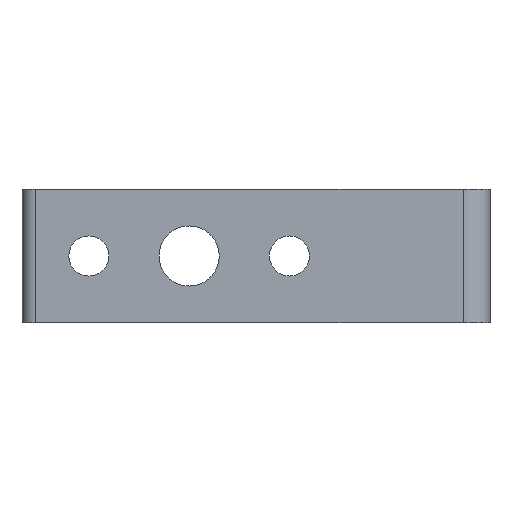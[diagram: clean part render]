
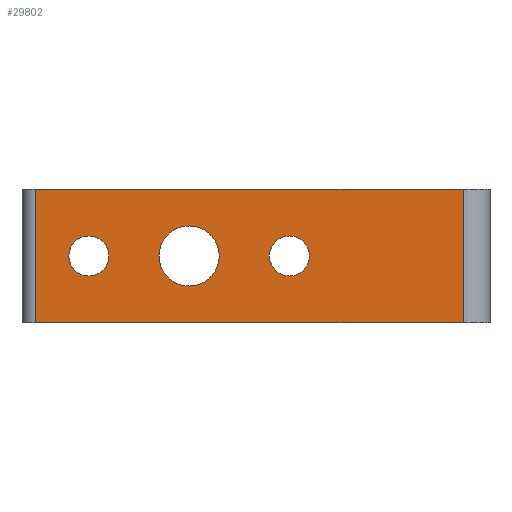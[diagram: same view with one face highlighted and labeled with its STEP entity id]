
A CAD part, left-side view. The second image highlights one B-rep face of the part: STEP entity #29802.
In plain terms, the highlighted planar face has unit normal (-1, 0, 0).
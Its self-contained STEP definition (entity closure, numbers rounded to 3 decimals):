
#347 = VECTOR ( 'NONE', #12349, 1000. ) ;
#520 = CARTESIAN_POINT ( 'NONE',  ( 0., 68., 10. ) ) ;
#677 = DIRECTION ( 'NONE',  ( 1., 0., 0. ) ) ;
#1066 = CARTESIAN_POINT ( 'NONE',  ( 0., 30., -3. ) ) ;
#1113 = DIRECTION ( 'NONE',  ( -1., 0., 0. ) ) ;
#1981 = EDGE_CURVE ( 'NONE', #17765, #9293, #6213, .T. ) ;
#2046 = DIRECTION ( 'NONE',  ( -1., 0., 0. ) ) ;
#2472 = ORIENTED_EDGE ( 'NONE', *, *, #34255, .F. ) ;
#3688 = CARTESIAN_POINT ( 'NONE',  ( 0., 4., 10. ) ) ;
#3921 = VECTOR ( 'NONE', #23252, 1000. ) ;
#4007 = ORIENTED_EDGE ( 'NONE', *, *, #33174, .T. ) ;
#4107 = DIRECTION ( 'NONE',  ( -1., 0., 0. ) ) ;
#4383 = EDGE_CURVE ( 'NONE', #24236, #13845, #13748, .T. ) ;
#4584 = VECTOR ( 'NONE', #8857, 1000. ) ;
#4629 = ORIENTED_EDGE ( 'NONE', *, *, #25536, .T. ) ;
#5080 = AXIS2_PLACEMENT_3D ( 'NONE', #21228, #5233, #23935 ) ;
#5233 = DIRECTION ( 'NONE',  ( -1., 0., 0. ) ) ;
#5258 = EDGE_CURVE ( 'NONE', #30194, #6555, #26282, .T. ) ;
#5335 = CIRCLE ( 'NONE', #18265, 3. ) ;
#5619 = CARTESIAN_POINT ( 'NONE',  ( 0., 60., 3. ) ) ;
#5871 = VERTEX_POINT ( 'NONE', #1066 ) ;
#6213 = CIRCLE ( 'NONE', #11713, 3. ) ;
#6403 = DIRECTION ( 'NONE',  ( 0., 0., 1. ) ) ;
#6529 = FACE_BOUND ( 'NONE', #29575, .T. ) ;
#6555 = VERTEX_POINT ( 'NONE', #21928 ) ;
#6589 = CARTESIAN_POINT ( 'NONE',  ( 0., 4., -10. ) ) ;
#7249 = CARTESIAN_POINT ( 'NONE',  ( 0., 68., 10. ) ) ;
#7970 = ORIENTED_EDGE ( 'NONE', *, *, #5258, .F. ) ;
#8493 = ORIENTED_EDGE ( 'NONE', *, *, #28821, .F. ) ;
#8644 = CIRCLE ( 'NONE', #27731, 4.5 ) ;
#8857 = DIRECTION ( 'NONE',  ( 0., -1., 0. ) ) ;
#9096 = VERTEX_POINT ( 'NONE', #14784 ) ;
#9293 = VERTEX_POINT ( 'NONE', #5619 ) ;
#10337 = DIRECTION ( 'NONE',  ( -1., 0., 0. ) ) ;
#10941 = CIRCLE ( 'NONE', #13640, 3. ) ;
#11205 = CIRCLE ( 'NONE', #5080, 3. ) ;
#11520 = AXIS2_PLACEMENT_3D ( 'NONE', #17119, #1113, #19819 ) ;
#11713 = AXIS2_PLACEMENT_3D ( 'NONE', #20129, #4107, #22802 ) ;
#12349 = DIRECTION ( 'NONE',  ( 0., -1., 0. ) ) ;
#13541 = CARTESIAN_POINT ( 'NONE',  ( 0., 30., 0. ) ) ;
#13638 = FACE_BOUND ( 'NONE', #18857, .T. ) ;
#13640 = AXIS2_PLACEMENT_3D ( 'NONE', #26367, #10337, #29025 ) ;
#13748 = LINE ( 'NONE', #28217, #347 ) ;
#13845 = VERTEX_POINT ( 'NONE', #33177 ) ;
#14784 = CARTESIAN_POINT ( 'NONE',  ( 0., 30., 3. ) ) ;
#15056 = CARTESIAN_POINT ( 'NONE',  ( 0., 70., -10. ) ) ;
#15463 = ORIENTED_EDGE ( 'NONE', *, *, #34668, .F. ) ;
#15719 = ORIENTED_EDGE ( 'NONE', *, *, #30517, .F. ) ;
#16194 = DIRECTION ( 'NONE',  ( 0., 0., 1. ) ) ;
#16772 = VERTEX_POINT ( 'NONE', #22961 ) ;
#17119 = CARTESIAN_POINT ( 'NONE',  ( 0., 45., 0. ) ) ;
#17765 = VERTEX_POINT ( 'NONE', #22048 ) ;
#17792 = LINE ( 'NONE', #3688, #31202 ) ;
#18042 = CARTESIAN_POINT ( 'NONE',  ( 0., 45., 0. ) ) ;
#18060 = AXIS2_PLACEMENT_3D ( 'NONE', #32722, #677, #19399 ) ;
#18265 = AXIS2_PLACEMENT_3D ( 'NONE', #13541, #32203, #16194 ) ;
#18627 = ORIENTED_EDGE ( 'NONE', *, *, #1981, .F. ) ;
#18857 = EDGE_LOOP ( 'NONE', ( #15719, #18627 ) ) ;
#19114 = CARTESIAN_POINT ( 'NONE',  ( 0., 45., 4.5 ) ) ;
#19399 = DIRECTION ( 'NONE',  ( 0., 0., -1. ) ) ;
#19819 = DIRECTION ( 'NONE',  ( 0., 0., 1. ) ) ;
#20129 = CARTESIAN_POINT ( 'NONE',  ( 0., 60., 0. ) ) ;
#20511 = ORIENTED_EDGE ( 'NONE', *, *, #26408, .T. ) ;
#20746 = DIRECTION ( 'NONE',  ( 0., 0., 1. ) ) ;
#21228 = CARTESIAN_POINT ( 'NONE',  ( 0., 30., 0. ) ) ;
#21928 = CARTESIAN_POINT ( 'NONE',  ( 0., 45., -4.5 ) ) ;
#22048 = CARTESIAN_POINT ( 'NONE',  ( 0., 60., -3. ) ) ;
#22802 = DIRECTION ( 'NONE',  ( 0., 0., 1. ) ) ;
#22961 = CARTESIAN_POINT ( 'NONE',  ( 0., 68., -10. ) ) ;
#23127 = VERTEX_POINT ( 'NONE', #6589 ) ;
#23252 = DIRECTION ( 'NONE',  ( 0., 0., -1. ) ) ;
#23935 = DIRECTION ( 'NONE',  ( 0., 0., 1. ) ) ;
#24236 = VERTEX_POINT ( 'NONE', #520 ) ;
#24537 = EDGE_LOOP ( 'NONE', ( #26187, #20511, #4629, #4007 ) ) ;
#25536 = EDGE_CURVE ( 'NONE', #16772, #23127, #33043, .T. ) ;
#26187 = ORIENTED_EDGE ( 'NONE', *, *, #4383, .F. ) ;
#26282 = CIRCLE ( 'NONE', #11520, 4.5 ) ;
#26367 = CARTESIAN_POINT ( 'NONE',  ( 0., 60., 0. ) ) ;
#26408 = EDGE_CURVE ( 'NONE', #24236, #16772, #31518, .T. ) ;
#27016 = FACE_OUTER_BOUND ( 'NONE', #24537, .T. ) ;
#27731 = AXIS2_PLACEMENT_3D ( 'NONE', #18042, #2046, #20746 ) ;
#28217 = CARTESIAN_POINT ( 'NONE',  ( 0., 70., 10. ) ) ;
#28821 = EDGE_CURVE ( 'NONE', #5871, #9096, #5335, .T. ) ;
#29025 = DIRECTION ( 'NONE',  ( 0., 0., 1. ) ) ;
#29575 = EDGE_LOOP ( 'NONE', ( #2472, #8493 ) ) ;
#29802 = ADVANCED_FACE ( 'NONE', ( #34141, #6529, #27016, #13638 ), #32122, .F. ) ;
#30194 = VERTEX_POINT ( 'NONE', #19114 ) ;
#30517 = EDGE_CURVE ( 'NONE', #9293, #17765, #10941, .T. ) ;
#30788 = EDGE_LOOP ( 'NONE', ( #7970, #15463 ) ) ;
#31202 = VECTOR ( 'NONE', #6403, 1000. ) ;
#31518 = LINE ( 'NONE', #7249, #3921 ) ;
#32122 = PLANE ( 'NONE',  #18060 ) ;
#32203 = DIRECTION ( 'NONE',  ( -1., 0., 0. ) ) ;
#32722 = CARTESIAN_POINT ( 'NONE',  ( 0., 70., 10. ) ) ;
#33043 = LINE ( 'NONE', #15056, #4584 ) ;
#33174 = EDGE_CURVE ( 'NONE', #23127, #13845, #17792, .T. ) ;
#33177 = CARTESIAN_POINT ( 'NONE',  ( 0., 4., 10. ) ) ;
#34141 = FACE_BOUND ( 'NONE', #30788, .T. ) ;
#34255 = EDGE_CURVE ( 'NONE', #9096, #5871, #11205, .T. ) ;
#34668 = EDGE_CURVE ( 'NONE', #6555, #30194, #8644, .T. ) ;
